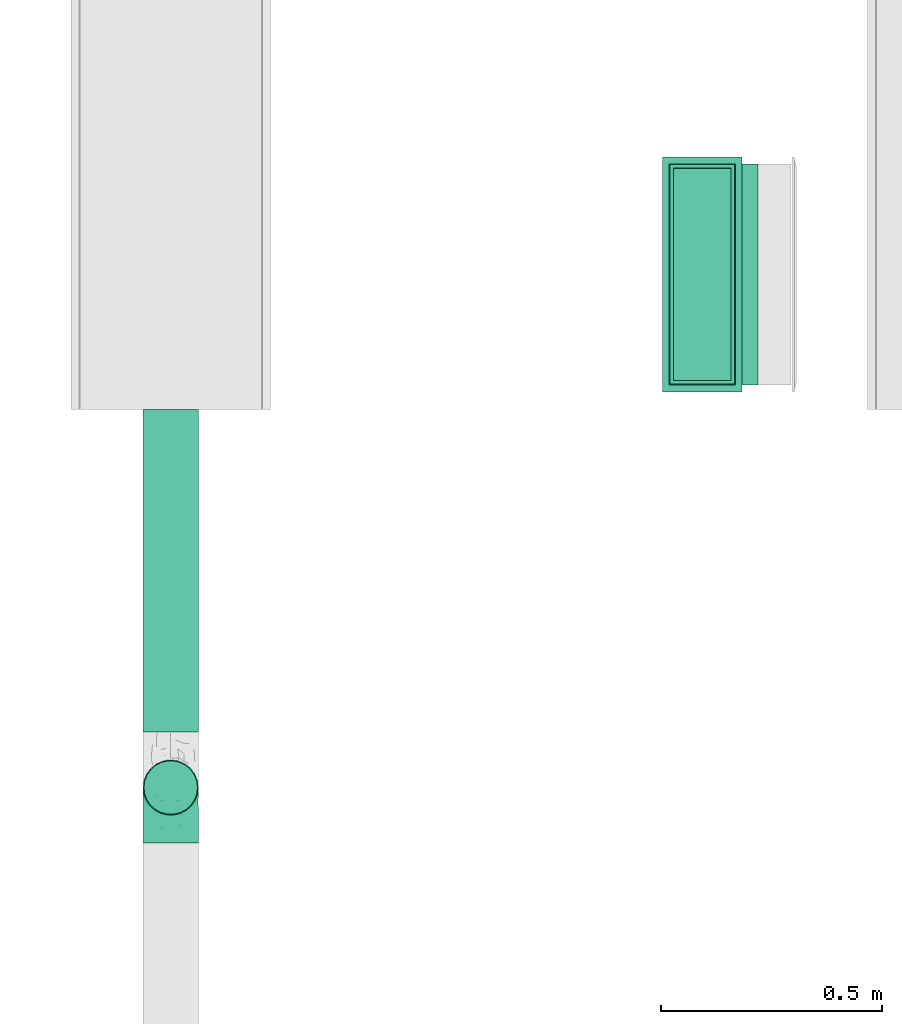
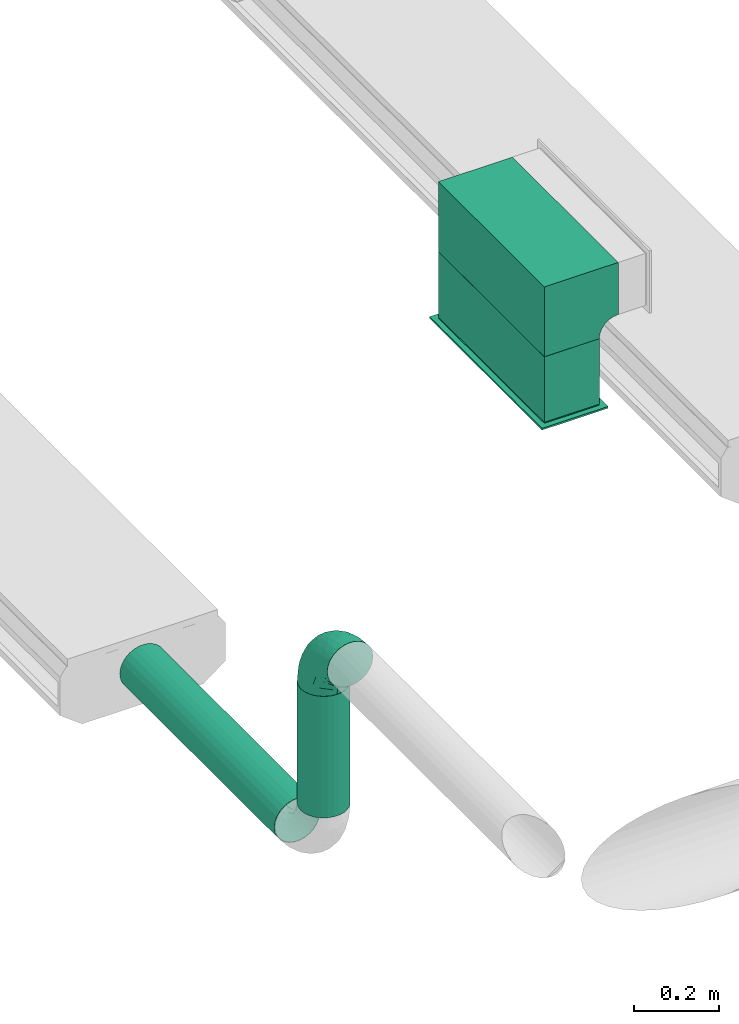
# One storey, part 28 of 36: 3 flow segments, 2 flow fittings, 1 flow terminal.
"""IFC2X3 building model written with IfcOpenShell, lengths in millimetres."""

from ifc_helpers import new_model, entity, si_unit, converted_unit, derived_unit, direction, frame, origin_with_axes, origin_2d_with_axis, place, context, subcontext, project, spatial, hollow_rectangle, hollow_circle, extrude, open_shell, surface_model, source, transform, mapped, type_object, element, save


model = new_model("IFC2X3")

# Units and contexts
model_context = context("Model", 3, precision=0.01, world=frame((0.0, 4.29681676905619e-09, 0.0)), true_north=direction((4.01073788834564e-13, 1.0)))
plan_context = context("Plan", 3, precision=0.01, world=frame((0.0, 4.29681676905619e-09, 0.0)), true_north=direction((4.01073788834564e-13, 1.0)))
body_context = subcontext(model_context, "Body", "Model", "MODEL_VIEW")
ifc_project = project(units=[converted_unit("PLANEANGLEUNIT", "DEGREE", entity("IfcPositiveLengthMeasure", 0.0174532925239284), si_unit("PLANEANGLEUNIT", "RADIAN"), dimensions=[0, 0, 0, 0, 0, 0, 0]), si_unit("AREAUNIT", "SQUARE_METRE"), si_unit("LENGTHUNIT", "METRE", prefix="MILLI"), si_unit("MASSUNIT", "GRAM", prefix="KILO"), si_unit("POWERUNIT", "WATT"), si_unit("PRESSUREUNIT", "PASCAL"), si_unit("FORCEUNIT", "NEWTON", prefix="KILO"), si_unit("ELECTRICCURRENTUNIT", "AMPERE"), si_unit("THERMODYNAMICTEMPERATUREUNIT", "DEGREE_CELSIUS"), si_unit("TIMEUNIT", "SECOND"), si_unit("VOLUMEUNIT", "CUBIC_METRE"), derived_unit("LINEARVELOCITYUNIT", [(si_unit("LENGTHUNIT", "METRE"), 1), (si_unit("TIMEUNIT", "SECOND"), -1)]), derived_unit("VOLUMETRICFLOWRATEUNIT", [(si_unit("VOLUMEUNIT", "CUBIC_METRE"), 1), (si_unit("TIMEUNIT", "SECOND"), -1)]), derived_unit("THERMALTRANSMITTANCEUNIT", [(si_unit("POWERUNIT", "WATT"), 1), (si_unit("THERMODYNAMICTEMPERATUREUNIT", "KELVIN"), -1), (si_unit("AREAUNIT", "SQUARE_METRE"), -1)])], contexts=[model_context, plan_context])

# Site, building, storey
site_placement = place(None, frame((0.0, -4.29681676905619e-09, 0.0), z_axis=(0.0, 0.0, 1.0), x_axis=(1.0, 0.0, 0.0)))
site = spatial("IfcSite", under=ifc_project, at=site_placement, CompositionType="ELEMENT")
building_placement = place(site_placement, frame((0.0, 4.29681676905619e-09, 0.0), z_axis=(0.0, 0.0, 1.0), x_axis=(1.0, 0.0, 0.0)))
building = spatial("IfcBuilding", under=site, at=building_placement, Name="mc-building", CompositionType="ELEMENT")
storey_placement = place(building_placement, frame((0.0, 0.0, 204000.0), z_axis=(0.0, 0.0, 1.0), x_axis=(1.0, 0.0, 0.0)))
storey = spatial("IfcBuildingStorey", under=building, at=storey_placement, Name="Nivå D", CompositionType="ELEMENT", Elevation=204000.0)

# Flow fittings
duct_fitting_type_1 = type_object("IfcDuctFittingType", Name="WA", PredefinedType="BEND")
shared_shape_1 = source(origin_with_axes(), body_context, "Body", "SurfaceModel", [
    surface_model("IfcShellBasedSurfaceModel", [(-76.70371, 112.05905, 250.0), (-81.69873, 100.0, 250.0), (75.0, 125.0, 250.0), (-75.0, 126.5, 250.0), (75.0, 126.5, 250.0), (-75.0, 125.0, 250.0), (75.0, -75.0, 250.0), (-126.5, 75.0, 250.0), (-126.5, -75.0, 250.0), (-125.0, 75.0, 250.0), (-112.05905, 76.70371, 250.0), (-89.64466, 89.64466, 250.0), (-100.0, 81.69873, 250.0), (-126.5, -75.0, -250.0), (-126.5, 75.0, -250.0), (-125.0, 75.0, -250.0), (-112.05905, 76.70371, -250.0), (-100.0, 81.69873, -250.0), (75.0, -75.0, -250.0), (-89.64466, 89.64466, -250.0), (-81.69873, 100.0, -250.0), (-76.70371, 112.05905, -250.0), (75.0, 125.0, -250.0), (-75.0, 125.0, -250.0), (-75.0, 126.5, -250.0), (75.0, 126.5, -250.0)], [open_shell([[[0, 1, 2]], [[3, 2, 4]], [[2, 3, 5]], [[2, 5, 0]], [[1, 6, 2]], [[7, 8, 9]], [[9, 8, 10]], [[11, 12, 6]], [[8, 12, 10]], [[12, 8, 6]], [[11, 6, 1]], [[13, 14, 15]], [[13, 15, 16]], [[13, 17, 18]], [[17, 13, 16]], [[18, 17, 19]], [[20, 21, 22]], [[20, 22, 18]], [[23, 22, 21]], [[22, 23, 24]], [[24, 25, 22]], [[20, 18, 19]], [[20, 1, 0]], [[23, 0, 5]], [[21, 0, 23]], [[20, 0, 21]], [[20, 19, 1]], [[19, 11, 1]], [[10, 12, 16]], [[9, 10, 15]], [[19, 17, 11]], [[17, 12, 11]], [[16, 12, 17]], [[16, 15, 10]], [[7, 9, 14]], [[15, 14, 9]], [[8, 7, 13]], [[14, 13, 7]], [[6, 8, 13]], [[13, 18, 6]], [[2, 6, 22]], [[18, 22, 6]], [[4, 2, 25]], [[22, 25, 2]], [[3, 4, 24]], [[25, 24, 4]], [[5, 3, 23]], [[24, 23, 3]]])]),
])
flow_fitting_1_placement = place(storey_placement, frame((528446.18595, 418919.06689, 3190.0), z_axis=(0.0, 1.0, 0.0), x_axis=(0.0, 0.0, 1.0)))
element("IfcFlowFitting", 1, at=flow_fitting_1_placement, inside=storey, type_object=duct_fitting_type_1, Name="WA", context=body_context, shape_type="MappedRepresentation", body=[
    mapped(shared_shape_1, transform((0.0, 0.0, 0.0), scale=1.0)),
])
duct_fitting_type_2 = type_object("IfcDuctFittingType", Name="magicirc_elbow_full_radius_001", PredefinedType="BEND")
shared_shape_2 = source(origin_with_axes(), body_context, "Body", "SurfaceModel", [
    surface_model("IfcShellBasedSurfaceModel", [(-125.0, 31.25, -54.12659), (-125.0, 16.17619, -60.37037), (-125.0, 44.19417, -44.19417), (-125.0, 60.37037, -16.17619), (-125.0, 54.12659, -31.25), (-125.0, -31.25, -54.12659), (-125.0, -44.19417, -44.19417), (-125.0, -16.17619, -60.37037), (-125.0, -54.12659, -31.25), (-125.0, -60.37037, -16.17619), (-125.0, -62.5, 0.0), (-125.0, -54.12659, 31.25), (-125.0, -44.19417, 44.19417), (-125.0, -60.37037, 16.17619), (-125.0, -16.17619, 60.37037), (-125.0, 0.0, 62.5), (-125.0, -31.25, 54.12659), (-125.0, 16.17619, 60.37037), (-44.19417, 125.0, -44.19417), (-16.17619, 125.0, -60.37037), (-31.25, 125.0, -54.12659), (-54.12659, 125.0, -31.25), (-60.37037, 125.0, -16.17619), (16.17619, 125.0, -60.37037), (44.19417, 125.0, -44.19417), (31.25, 125.0, -54.12659), (60.37037, 125.0, -16.17619), (54.12659, 125.0, -31.25), (62.5, 125.0, 0.0), (-44.19417, 125.0, 44.19417), (-31.25, 125.0, 54.12659), (-16.17619, 125.0, 60.37037), (60.37037, 125.0, 16.17619), (44.19417, 125.0, 44.19417), (54.12659, 125.0, 31.25), (31.25, 125.0, 54.12659), (0.0, 125.0, 62.5), (16.17619, 125.0, 60.37037), (-92.0149, -48.59662, 35.11543), (-82.31101, -36.10079, 46.59002), (-83.27732, -57.79898, 0.0), (21.5934, 8.09566, 0.0), (6.68953, -6.68953, 12.50062), (-8.09566, -21.5934, 0.0), (-85.18285, -54.95352, 19.72452), (-63.86862, 108.10791, 10.69753), (-72.65264, 88.16475, 13.64847), (-58.85933, 108.47697, 26.01876), (28.68805, 50.93011, 42.73586), (15.24994, 48.30376, 51.88115), (13.33611, 22.15566, 40.76355), (-28.58034, -33.18174, 16.61251), (-55.80927, -40.00167, 31.60254), (-55.92901, -46.21073, 18.75923), (-43.6468, -43.93166, 0.0), (-11.16429, 11.16428, 51.09905), (-91.91541, -23.64007, 56.2333), (-48.30376, -15.24994, 51.88115), (-62.2246, -0.56088, 60.57833), (-86.05221, 71.09173, 22.01563), (-76.29757, 73.71528, 30.99181), (-95.48, -8.27954, 61.43109), (-21.72166, 61.46244, 62.38786), (-46.29465, 46.29465, 60.98138), (-37.21568, 27.31198, 62.17805), (-125.0, 31.25, 54.12659), (-96.3442, 24.51222, 59.0402), (-23.33012, 107.80836, 58.54242), (-8.56588, 93.49118, 62.34649), (-87.52028, 9.58041, 62.39347), (-125.0, 54.12659, 31.25), (-90.8433, 62.14568, 32.36992), (-104.65631, 61.64741, 22.10298), (-108.67612, 63.76169, 10.43133), (-125.0, 62.5, 0.0), (-125.0, 60.37037, 16.17619), (-88.81041, 72.98575, 10.36437), (36.10079, 82.31101, 46.59002), (-22.15566, -13.33612, 40.76355), (-125.0, 44.19417, 44.19417), (-97.70214, 52.10141, 41.01675), (33.18174, 28.58034, 16.61251), (43.93166, 43.6468, 0.0), (-108.13323, 37.84893, 50.9265), (-16.31425, 41.86087, 61.36861), (-31.05498, 11.46575, 58.36241), (-6.38494, 33.76703, 57.43674), (23.64007, 91.91541, 56.2333), (8.27954, 95.48, 61.43109), (40.00167, 55.80927, 31.60254), (47.31258, 55.33607, 14.21495), (57.79898, 83.27732, 0.0), (54.95352, 85.18285, 19.72452), (48.59662, 92.0149, 35.11543), (-51.08394, 80.06201, 49.23756), (-51.34965, 100.68876, 40.68918), (-65.88145, 69.79931, 44.27158), (-67.25753, 101.08228, 0.0), (-60.37037, 125.0, 16.17619), (-54.12659, 125.0, 31.25), (-66.7509, 56.0836, 51.93913), (-47.27423, 67.56375, 55.69769), (-62.5, 125.0, 0.0), (-80.80582, 80.80582, 0.0), (-101.08228, 67.25753, 0.0), (-27.0301, 84.68903, 59.52251), (-39.49549, 96.79785, 51.80473), (-4.68934, 4.68934, 43.22247), (2.91368, -2.91368, 27.95973), (-68.67967, 26.77168, 61.38152), (-61.32894, 15.31518, 62.47333), (-66.44476, 42.40788, 57.80884), (-86.06534, 42.42608, 52.63144), (-36.4073, 64.87811, 59.87196), (0.56088, 62.2246, 60.57833), (-50.92891, -28.66756, 42.755), (-64.50927, 88.5041, 30.85553), (-27.43118, -26.16339, 29.83954), (22.73426, 21.43212, 28.89237), (-90.73911, 40.97988, -52.27133), (-51.05944, -15.77315, -52.43613), (-54.27147, -0.77962, -59.44482), (-25.11169, -1.04586, -51.21226), (-125.0, 0.0, -62.5), (-98.94229, 7.90272, -62.29658), (-67.16143, 94.52638, -18.73917), (-96.1712, 24.53976, -59.04752), (-57.8841, 72.64103, -48.12601), (-44.50916, 76.42373, -54.27754), (-57.76281, 57.76281, -54.8772), (-107.28047, 64.03146, -11.08737), (-59.60363, -46.85882, -20.9596), (-91.17795, -55.95169, -20.37554), (-87.70528, 72.36167, -15.72738), (37.33987, 90.42119, -47.18844), (21.5694, 79.15007, -55.58604), (24.6394, 105.55614, -56.88213), (-98.81833, 51.80612, -40.89409), (-75.37655, 57.2746, -47.13743), (-29.56225, -32.61603, -19.86672), (2.63114, 29.35884, -52.12213), (-22.06401, 22.064, -59.01679), (-105.22465, -49.75349, -36.31269), (-39.22852, 98.11971, -51.7028), (-25.51302, 90.93127, -59.26694), (7.06321, 14.54725, -41.00964), (25.49531, 46.66577, -43.72165), (20.99941, 20.9078, -30.93535), (-90.42119, -37.33987, -47.18844), (-47.40462, -35.90659, -32.07933), (-105.55614, -24.6394, -56.88213), (0.77962, 54.27147, -59.44482), (12.91756, 53.35696, -54.59988), (7.88048, 92.08251, -61.35725), (0.0, 125.0, -62.5), (-79.15007, -21.5694, -55.58604), (-92.08251, -7.88048, -61.35725), (-78.52964, -46.34869, -33.8522), (-68.20954, -28.53784, -49.07387), (46.34869, 78.52964, -33.8522), (46.85882, 59.60363, -20.9596), (35.90659, 47.40462, -32.07933), (-75.95077, 74.3101, -30.65772), (-100.92719, 60.72326, -27.00798), (2.91558, -2.91558, -27.95435), (6.69001, -6.69001, -12.49729), (32.61603, 29.56225, -19.86672), (-54.06785, 91.48679, -41.70621), (-58.74822, 101.55878, -30.19257), (-7.90272, 98.94229, -62.29658), (49.75349, 105.22465, -36.31269), (-14.77484, 68.85348, -62.48651), (-33.7955, 36.46996, -62.46452), (-36.98162, 59.24998, -60.63975), (55.95169, 91.17795, -20.37554), (-61.70769, 36.16979, -60.43635), (-23.35082, -23.18253, -30.24249), (-68.85348, 14.77484, -62.48651), (-16.60827, -10.64436, -39.25753), (-46.66577, -25.49531, -43.72165), (-69.70063, 70.78468, -40.55271)], [open_shell([[[0, 1, 2]], [[3, 4, 2]], [[5, 6, 7]], [[8, 9, 6]], [[10, 6, 9]], [[11, 12, 13]], [[13, 12, 10]], [[14, 15, 16]], [[16, 15, 17]], [[18, 19, 20]], [[18, 21, 22]], [[23, 24, 25]], [[24, 26, 27]], [[26, 24, 28]], [[29, 30, 31]], [[32, 33, 34]], [[35, 36, 37]], [[12, 38, 39]], [[13, 10, 40]], [[41, 42, 43]], [[44, 11, 13]], [[40, 44, 13]], [[45, 46, 47]], [[11, 38, 12]], [[48, 49, 50]], [[51, 52, 53]], [[51, 53, 54]], [[12, 39, 16]], [[51, 54, 43]], [[55, 50, 49]], [[56, 57, 58]], [[46, 59, 60]], [[61, 15, 14]], [[62, 63, 64]], [[65, 17, 66]], [[56, 16, 39]], [[31, 67, 68]], [[15, 69, 17]], [[70, 71, 72]], [[73, 74, 75]], [[59, 76, 73]], [[77, 33, 35]], [[55, 57, 78]], [[79, 80, 70]], [[81, 41, 82]], [[79, 65, 83]], [[84, 85, 86]], [[77, 35, 87]], [[59, 73, 72]], [[88, 37, 36]], [[89, 81, 90]], [[91, 92, 90]], [[91, 32, 92]], [[93, 92, 34]], [[36, 31, 68]], [[53, 40, 54]], [[32, 34, 92]], [[77, 89, 93]], [[34, 33, 93]], [[94, 95, 96]], [[45, 97, 46]], [[98, 47, 99]], [[32, 91, 28]], [[38, 44, 52]], [[71, 60, 59]], [[94, 100, 101]], [[102, 97, 45]], [[15, 61, 69]], [[46, 103, 76]], [[79, 83, 80]], [[97, 103, 46]], [[87, 35, 37]], [[47, 95, 99]], [[76, 103, 104]], [[105, 106, 101]], [[107, 108, 50]], [[105, 62, 68]], [[16, 56, 14]], [[106, 105, 67]], [[67, 31, 30]], [[30, 29, 106]], [[77, 87, 49]], [[90, 81, 82]], [[109, 110, 64]], [[66, 17, 69]], [[111, 66, 109]], [[100, 80, 112]], [[72, 71, 59]], [[95, 29, 99]], [[113, 101, 63]], [[105, 113, 62]], [[88, 68, 114]], [[57, 56, 39]], [[61, 56, 58]], [[57, 115, 78]], [[57, 55, 85]], [[88, 87, 37]], [[114, 86, 49]], [[114, 49, 87]], [[107, 50, 55]], [[44, 38, 11]], [[39, 38, 52]], [[77, 93, 33]], [[92, 93, 89]], [[109, 66, 69]], [[83, 66, 112]], [[73, 76, 104]], [[46, 76, 59]], [[74, 73, 104]], [[73, 75, 72]], [[75, 70, 72]], [[71, 70, 80]], [[80, 96, 71]], [[60, 96, 116]], [[106, 94, 101]], [[111, 100, 112]], [[109, 64, 63]], [[114, 68, 62]], [[85, 64, 58]], [[62, 64, 84]], [[68, 88, 36]], [[87, 88, 114]], [[56, 61, 14]], [[69, 61, 58]], [[96, 95, 116]], [[106, 29, 95]], [[42, 51, 43]], [[117, 108, 78]], [[89, 48, 118]], [[81, 118, 42]], [[115, 57, 39]], [[51, 117, 52]], [[118, 50, 108]], [[77, 48, 89]], [[109, 69, 110]], [[111, 109, 63]], [[101, 111, 63]], [[66, 111, 112]], [[101, 100, 111]], [[80, 100, 96]], [[69, 58, 110]], [[58, 64, 110]], [[96, 60, 71]], [[46, 60, 116]], [[57, 85, 58]], [[86, 85, 55]], [[49, 86, 55]], [[84, 86, 114]], [[62, 84, 114]], [[85, 84, 64]], [[47, 46, 116]], [[102, 45, 98]], [[81, 42, 41]], [[51, 42, 108]], [[66, 83, 65]], [[80, 83, 112]], [[106, 67, 30]], [[68, 67, 105]], [[45, 47, 98]], [[95, 47, 116]], [[62, 113, 63]], [[105, 101, 113]], [[95, 94, 106]], [[100, 94, 96]], [[52, 44, 53]], [[53, 44, 40]], [[91, 90, 82]], [[89, 90, 92]], [[39, 52, 115]], [[117, 115, 52]], [[108, 117, 51]], [[115, 117, 78]], [[55, 78, 107]], [[108, 107, 78]], [[42, 118, 108]], [[89, 118, 81]], [[49, 48, 77]], [[118, 48, 50]], [[2, 119, 0]], [[120, 121, 122]], [[123, 1, 124]], [[125, 97, 102]], [[0, 126, 1]], [[127, 128, 129]], [[104, 130, 74]], [[131, 40, 132]], [[104, 133, 130]], [[134, 135, 136]], [[137, 138, 119]], [[54, 139, 43]], [[140, 122, 141]], [[119, 2, 137]], [[132, 8, 142]], [[143, 20, 144]], [[40, 10, 9]], [[145, 146, 147]], [[148, 6, 5]], [[139, 131, 149]], [[150, 148, 5]], [[140, 151, 152]], [[23, 153, 154]], [[132, 9, 8]], [[142, 8, 6]], [[155, 156, 121]], [[157, 148, 158]], [[5, 7, 150]], [[156, 7, 123]], [[159, 160, 161]], [[103, 133, 104]], [[54, 40, 131]], [[125, 162, 133]], [[137, 163, 162]], [[22, 125, 102]], [[139, 164, 165]], [[166, 82, 41]], [[167, 168, 21]], [[162, 125, 168]], [[25, 24, 134]], [[153, 23, 136]], [[19, 169, 144]], [[126, 0, 119]], [[169, 19, 154]], [[24, 27, 170]], [[20, 143, 18]], [[19, 144, 20]], [[23, 25, 136]], [[82, 166, 160]], [[165, 166, 41]], [[171, 172, 173]], [[141, 151, 140]], [[165, 41, 43]], [[156, 155, 150]], [[135, 134, 146]], [[27, 26, 174]], [[28, 91, 26]], [[175, 126, 119]], [[2, 4, 137]], [[174, 159, 170]], [[176, 139, 149]], [[171, 153, 151]], [[125, 103, 97]], [[21, 18, 167]], [[173, 144, 171]], [[130, 163, 3]], [[127, 143, 128]], [[138, 127, 129]], [[174, 160, 159]], [[170, 134, 24]], [[146, 134, 159]], [[151, 153, 135]], [[169, 153, 171]], [[152, 146, 140]], [[151, 141, 172]], [[26, 91, 174]], [[160, 91, 82]], [[155, 120, 158]], [[142, 148, 157]], [[124, 156, 123]], [[177, 172, 121]], [[177, 121, 156]], [[121, 141, 122]], [[132, 157, 131]], [[40, 9, 132]], [[125, 133, 103]], [[168, 22, 21]], [[163, 4, 3]], [[119, 138, 129]], [[175, 119, 129]], [[124, 126, 177]], [[144, 173, 128]], [[167, 18, 143]], [[146, 145, 140]], [[178, 122, 145]], [[122, 140, 145]], [[122, 179, 120]], [[162, 163, 133]], [[137, 4, 163]], [[126, 124, 1]], [[156, 124, 177]], [[153, 169, 154]], [[144, 169, 171]], [[146, 161, 147]], [[145, 164, 178]], [[176, 164, 139]], [[122, 178, 179]], [[171, 151, 172]], [[175, 129, 173]], [[121, 172, 141]], [[175, 172, 177]], [[172, 175, 173]], [[126, 175, 177]], [[162, 180, 137]], [[180, 167, 127]], [[160, 174, 91]], [[161, 160, 166]], [[161, 166, 147]], [[146, 159, 161]], [[166, 164, 147]], [[164, 145, 147]], [[149, 131, 157]], [[54, 131, 139]], [[157, 179, 149]], [[176, 179, 178]], [[180, 127, 138]], [[143, 127, 167]], [[144, 128, 143]], [[173, 129, 128]], [[137, 180, 138]], [[167, 180, 162]], [[179, 176, 149]], [[164, 176, 178]], [[139, 165, 43]], [[166, 165, 164]], [[163, 130, 133]], [[74, 130, 3]], [[134, 136, 25]], [[153, 136, 135]], [[174, 170, 27]], [[134, 170, 159]], [[156, 150, 7]], [[148, 150, 155]], [[148, 142, 6]], [[132, 142, 157]], [[162, 168, 167]], [[22, 168, 125]], [[151, 135, 152]], [[146, 152, 135]], [[158, 120, 179]], [[121, 120, 155]], [[157, 158, 179]], [[155, 158, 148]], [[123, 6, 1]], [[6, 2, 1]], [[2, 6, 3]], [[6, 123, 7]], [[10, 12, 6]], [[75, 3, 6]], [[6, 16, 75]], [[75, 16, 70]], [[65, 70, 16]], [[79, 70, 65]], [[65, 16, 17]], [[12, 16, 6]], [[74, 3, 75]], [[19, 24, 154]], [[23, 154, 24]], [[22, 102, 98]], [[24, 19, 18]], [[33, 24, 18]], [[33, 18, 22]], [[24, 32, 28]], [[33, 22, 98]], [[29, 98, 99]], [[98, 29, 33]], [[31, 33, 29]], [[24, 33, 32]], [[36, 35, 33]], [[31, 36, 33]]])]),
])
flow_fitting_2_placement = place(storey_placement, frame((527245.00387, 417759.63634, 3199.99994000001), z_axis=(1.0, 0.0, 0.0), x_axis=(0.0, 0.0, 1.0)))
element("IfcFlowFitting", 2, at=flow_fitting_2_placement, inside=storey, type_object=duct_fitting_type_2, Name="magicirc_elbow_full_radius_001", context=body_context, shape_type="MappedRepresentation", body=[
    mapped(shared_shape_2, transform((0.0, 0.0, 0.0), scale=1.0)),
])

# Flow segments
duct_segment_type_1 = type_object("IfcDuctSegmentType", Name="KK001T - Spiro kanaler, Forsinket stål", PredefinedType="RIGIDSEGMENT")
shared_shape_3 = source(origin_with_axes(), body_context, "Body", "SweptSolid", [
    extrude(hollow_circle(Radius=62.5, WallThickness=2.0, at=origin_2d_with_axis()), frame((0.0, 0.0, 0.0), z_axis=(1.0, 0.0, 0.0), x_axis=(0.0, 1.0, 0.0)), (0.0, 0.0, 1.0), 729.2),
])
flow_segment_1_placement = place(storey_placement, frame((527245.00387, 418613.82336, 2600.00026999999), z_axis=(0.0, 0.0, 1.0), x_axis=(0.0, -1.0, 0.0)))
element("IfcFlowSegment", 3, at=flow_segment_1_placement, inside=storey, type_object=duct_segment_type_1, Name="KK001T - Spiro kanaler, Forsinket stål", context=body_context, shape_type="MappedRepresentation", body=[
    mapped(shared_shape_3, transform((0.0, 0.0, 0.0), scale=1.0)),
])
shared_shape_4 = source(origin_with_axes(), body_context, "Body", "SweptSolid", [
    extrude(hollow_circle(Radius=62.5, WallThickness=2.0, at=origin_2d_with_axis()), frame((0.0, 0.0, 0.0), z_axis=(1.0, 0.0, 0.0), x_axis=(0.0, 1.0, 0.0)), (0.0, 0.0, 1.0), 350.0),
])
flow_segment_2_placement = place(storey_placement, frame((527245.00387, 417759.63634, 2725.00002000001), z_axis=(0.0, -1.0, 0.0), x_axis=(0.0, 0.0, 1.0)))
element("IfcFlowSegment", 4, at=flow_segment_2_placement, inside=storey, type_object=duct_segment_type_1, Name="KK001T - Spiro kanaler, Forsinket stål", context=body_context, shape_type="MappedRepresentation", body=[
    mapped(shared_shape_4, transform((0.0, 0.0, 0.0), scale=1.0)),
])
duct_segment_type_2 = type_object("IfcDuctSegmentType", Name="KK002T - Rektangulære, Forsinket stål", PredefinedType="RIGIDSEGMENT")
shared_shape_5 = source(origin_with_axes(), body_context, "Body", "SweptSolid", [
    extrude(hollow_rectangle(XDim=500.0, YDim=150.0, WallThickness=2.0, at=origin_2d_with_axis()), frame((0.0, 0.0, 0.0), z_axis=(1.0, 0.0, 0.0), x_axis=(0.0, 1.0, 0.0)), (0.0, 0.0, 1.0), 188.4),
])
flow_segment_3_placement = place(storey_placement, frame((528446.18595, 418919.06689, 2875.05682999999), z_axis=(-1.0, 0.0, 0.0), x_axis=(0.0, 0.0, 1.0)))
element("IfcFlowSegment", 5, at=flow_segment_3_placement, inside=storey, type_object=duct_segment_type_2, Name="KK002T - Rektangulære, Forsinket stål", context=body_context, shape_type="MappedRepresentation", body=[
    mapped(shared_shape_5, transform((0.0, 0.0, 0.0), scale=1.0)),
])

# Flow terminal
air_terminal_type = type_object("IfcAirTerminalType", Name="GRLc 500-150", PredefinedType="NOTDEFINED")
shared_shape_6 = source(origin_with_axes(), body_context, "Body", "SurfaceModel", [
    surface_model("IfcShellBasedSurfaceModel", [(9.90194, -239.99999, 64.98039), (4.90194, -264.99999, 89.98039), (9.90194, 239.99999, 64.98039), (4.90194, 264.99999, 89.98039), (10.09806, 239.99999, 65.01961), (5.09806, 264.99999, 90.01961), (5.09806, -264.99999, 90.01961), (10.09806, -239.99999, 65.01961), (10.09806, -239.99999, -65.01961), (5.09806, -264.99999, -90.01961), (10.09806, 239.99999, -65.01961), (5.09806, 264.99999, -90.01961), (9.90194, 239.99999, -64.98039), (4.90194, 264.99999, -89.98039), (4.90194, -264.99999, -89.98039), (9.90194, -239.99999, -64.98039), (9.90194, -239.98039, -65.0), (4.90194, -264.98039, -90.0), (4.90194, -264.98039, 90.0), (9.90194, -239.98039, 65.0), (10.09806, -240.01962, 65.0), (5.09806, -265.01962, 90.0), (5.09806, -265.01962, -90.0), (10.09806, -240.01962, -65.0), (10.09806, 240.01962, -65.0), (5.09806, 265.01962, -90.0), (5.09806, 265.01962, 90.0), (10.09806, 240.01962, 65.0), (9.90194, 239.98039, 65.0), (4.90194, 264.98039, 90.0), (4.90194, 264.98039, -90.0), (9.90194, 239.98039, -65.0), (-0.1, 264.99999, 75.0), (-0.1, 250.0, 75.0), (-0.1, 250.0, 90.0), (-0.1, 264.99999, 90.0), (0.1, 264.99999, 90.0), (0.1, 250.0, 90.0), (0.1, 250.0, 75.0), (0.1, 264.99999, 75.0), (-0.1, 264.99999, -90.0), (-0.1, 250.0, -90.0), (-0.1, 250.0, -75.0), (-0.1, 264.99999, -75.0), (0.1, 264.99999, -75.0), (0.1, 250.0, -75.0), (0.1, 250.0, -90.0), (0.1, 264.99999, -90.0), (-0.1, -250.0, -90.0), (-0.1, -264.99999, -90.0), (-0.1, -264.99999, -75.0), (-0.1, -250.0, -75.0), (0.1, -250.0, -75.0), (0.1, -264.99999, -75.0), (0.1, -264.99999, -90.0), (0.1, -250.0, -90.0), (-0.1, -250.0, 75.0), (-0.1, -264.99999, 75.0), (-0.1, -264.99999, 90.0), (-0.1, -250.0, 90.0), (0.1, -250.0, 90.0), (0.1, -264.99999, 90.0), (0.1, -264.99999, 75.0), (0.1, -250.0, 75.0), (0.0, -264.99999, 89.9), (0.0, 264.99999, 89.9), (5.0, -264.99999, 89.9), (5.0, 264.99999, 89.9), (5.0, -264.99999, 90.1), (5.0, 264.99999, 90.1), (0.0, 264.99999, 90.1), (0.0, -264.99999, 90.1), (0.0, 264.9, -90.0), (5.0, 264.9, -90.0), (5.0, 264.9, 90.0), (0.0, 264.9, 90.0), (0.0, 265.10001, 90.0), (5.0, 265.10001, 90.0), (0.0, 265.10001, -90.0), (5.0, 265.10001, -90.0), (0.0, -265.10001, -90.0), (5.0, -265.10001, -90.0), (5.0, -265.10001, 90.0), (0.0, -265.10001, 90.0), (0.0, -264.9, 90.0), (5.0, -264.9, 90.0), (0.0, -264.9, -90.0), (5.0, -264.9, -90.0), (0.0, -264.99999, -90.1), (0.0, 264.99999, -90.1), (5.0, -264.99999, -90.1), (5.0, 264.99999, -90.1), (5.0, -264.99999, -89.9), (5.0, 264.99999, -89.9), (0.0, 264.99999, -89.9), (0.0, -264.99999, -89.9), (5.0, -239.99999, -65.1), (5.0, 239.99999, -65.1), (10.0, 239.99999, -65.1), (10.0, -239.99999, -65.1), (10.0, -239.99999, -64.9), (10.0, 239.99999, -64.9), (5.0, 239.99999, -64.9), (5.0, -239.99999, -64.9), (5.0, -239.99999, 64.9), (5.0, 239.99999, 64.9), (10.0, 239.99999, 64.9), (10.0, -239.99999, 64.9), (10.0, -239.99999, 65.1), (10.0, 239.99999, 65.1), (5.0, 239.99999, 65.1), (5.0, -239.99999, 65.1), (5.0, 239.9, -65.0), (10.0, 239.9, -65.0), (10.0, 239.9, 65.0), (5.0, 239.9, 65.0), (5.0, 240.10001, 65.0), (10.0, 240.10001, 65.0), (5.0, 240.10001, -65.0), (10.0, 240.10001, -65.0), (5.0, -240.10001, -65.0), (10.0, -240.10001, -65.0), (10.0, -240.10001, 65.0), (5.0, -240.10001, 65.0), (5.0, -239.9, 65.0), (10.0, -239.9, 65.0), (5.0, -239.9, -65.0), (10.0, -239.9, -65.0)], [open_shell([[[0, 1, 2]], [[3, 2, 1]], [[4, 5, 6]], [[6, 7, 4]], [[3, 1, 6]], [[6, 5, 3]], [[2, 3, 5]], [[5, 4, 2]], [[0, 2, 4]], [[4, 7, 0]], [[1, 0, 7]], [[7, 6, 1]], [[8, 9, 10]], [[11, 10, 9]], [[12, 13, 14]], [[14, 15, 12]], [[11, 9, 14]], [[14, 13, 11]], [[10, 11, 13]], [[13, 12, 10]], [[8, 10, 12]], [[12, 15, 8]], [[9, 8, 15]], [[15, 14, 9]], [[16, 17, 18]], [[18, 19, 16]], [[20, 21, 22]], [[22, 23, 20]], [[18, 17, 22]], [[22, 21, 18]], [[19, 18, 21]], [[21, 20, 19]], [[16, 19, 23]], [[20, 23, 19]], [[17, 16, 22]], [[23, 22, 16]], [[24, 25, 26]], [[26, 27, 24]], [[28, 29, 30]], [[30, 31, 28]], [[26, 25, 30]], [[30, 29, 26]], [[27, 26, 29]], [[29, 28, 27]], [[24, 27, 31]], [[28, 31, 27]], [[25, 24, 31]], [[31, 30, 25]], [[32, 33, 34]], [[34, 35, 32]], [[36, 37, 38]], [[38, 39, 36]], [[34, 33, 38]], [[38, 37, 34]], [[35, 34, 37]], [[37, 36, 35]], [[32, 35, 36]], [[36, 39, 32]], [[33, 32, 39]], [[39, 38, 33]], [[40, 41, 42]], [[42, 43, 40]], [[44, 45, 46]], [[46, 47, 44]], [[42, 41, 46]], [[46, 45, 42]], [[43, 42, 45]], [[45, 44, 43]], [[40, 43, 44]], [[44, 47, 40]], [[41, 40, 47]], [[47, 46, 41]], [[48, 49, 50]], [[50, 51, 48]], [[52, 53, 54]], [[54, 55, 52]], [[50, 49, 54]], [[54, 53, 50]], [[51, 50, 53]], [[53, 52, 51]], [[48, 51, 52]], [[52, 55, 48]], [[49, 48, 55]], [[55, 54, 49]], [[56, 57, 58]], [[58, 59, 56]], [[60, 61, 62]], [[62, 63, 60]], [[58, 57, 62]], [[62, 61, 58]], [[59, 58, 61]], [[61, 60, 59]], [[56, 59, 60]], [[60, 63, 56]], [[57, 56, 63]], [[63, 62, 57]], [[64, 65, 66]], [[67, 66, 65]], [[68, 69, 70]], [[70, 71, 68]], [[67, 65, 70]], [[70, 69, 67]], [[66, 67, 69]], [[69, 68, 66]], [[64, 66, 68]], [[68, 71, 64]], [[65, 64, 71]], [[71, 70, 65]], [[72, 73, 74]], [[74, 75, 72]], [[76, 77, 78]], [[79, 78, 77]], [[74, 73, 79]], [[79, 77, 74]], [[75, 74, 77]], [[77, 76, 75]], [[72, 75, 76]], [[76, 78, 72]], [[73, 72, 78]], [[78, 79, 73]], [[80, 81, 82]], [[82, 83, 80]], [[84, 85, 86]], [[87, 86, 85]], [[82, 81, 87]], [[87, 85, 82]], [[83, 82, 85]], [[85, 84, 83]], [[80, 83, 84]], [[84, 86, 80]], [[81, 80, 86]], [[86, 87, 81]], [[88, 89, 90]], [[91, 90, 89]], [[92, 93, 94]], [[94, 95, 92]], [[91, 89, 94]], [[94, 93, 91]], [[90, 91, 93]], [[93, 92, 90]], [[88, 90, 92]], [[92, 95, 88]], [[89, 88, 95]], [[95, 94, 89]], [[96, 97, 98]], [[98, 99, 96]], [[100, 101, 102]], [[102, 103, 100]], [[98, 97, 101]], [[102, 101, 97]], [[99, 98, 101]], [[101, 100, 99]], [[96, 99, 100]], [[100, 103, 96]], [[97, 96, 103]], [[103, 102, 97]], [[104, 105, 106]], [[106, 107, 104]], [[108, 109, 110]], [[110, 111, 108]], [[106, 105, 109]], [[110, 109, 105]], [[107, 106, 109]], [[109, 108, 107]], [[104, 107, 108]], [[108, 111, 104]], [[105, 104, 111]], [[111, 110, 105]], [[112, 113, 114]], [[114, 115, 112]], [[116, 117, 118]], [[119, 118, 117]], [[114, 113, 119]], [[119, 117, 114]], [[115, 114, 117]], [[117, 116, 115]], [[112, 115, 118]], [[116, 118, 115]], [[113, 112, 118]], [[118, 119, 113]], [[120, 121, 122]], [[122, 123, 120]], [[124, 125, 126]], [[127, 126, 125]], [[122, 121, 127]], [[127, 125, 122]], [[123, 122, 125]], [[125, 124, 123]], [[120, 123, 126]], [[124, 126, 123]], [[121, 120, 126]], [[126, 127, 121]], [[33, 56, 34]], [[59, 34, 56]], [[37, 60, 63]], [[63, 38, 37]], [[59, 56, 63]], [[63, 60, 59]], [[34, 59, 60]], [[60, 37, 34]], [[33, 34, 37]], [[37, 38, 33]], [[56, 33, 38]], [[38, 63, 56]], [[51, 50, 57]], [[57, 56, 51]], [[63, 62, 53]], [[53, 52, 63]], [[57, 50, 53]], [[53, 62, 57]], [[56, 57, 62]], [[62, 63, 56]], [[51, 56, 63]], [[63, 52, 51]], [[50, 51, 52]], [[52, 53, 50]], [[41, 48, 42]], [[51, 42, 48]], [[45, 52, 55]], [[55, 46, 45]], [[51, 48, 55]], [[55, 52, 51]], [[42, 51, 52]], [[52, 45, 42]], [[41, 42, 45]], [[45, 46, 41]], [[48, 41, 46]], [[46, 55, 48]], [[43, 42, 33]], [[33, 32, 43]], [[39, 38, 45]], [[45, 44, 39]], [[33, 42, 45]], [[45, 38, 33]], [[32, 33, 38]], [[38, 39, 32]], [[43, 32, 39]], [[39, 44, 43]], [[42, 43, 44]], [[44, 45, 42]]])]),
])
flow_terminal_placement = place(storey_placement, frame((528446.18595, 418919.06689, 2871.97834999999), z_axis=(-1.0, 0.0, 0.0), x_axis=(0.0, 0.0, -1.0)))
element("IfcFlowTerminal", 6, at=flow_terminal_placement, inside=storey, type_object=air_terminal_type, Name="GRLc 500-150", context=body_context, shape_type="MappedRepresentation", body=[
    mapped(shared_shape_6, transform((0.0, 0.0, 0.0), scale=1.0)),
])

save(model, "model.ifc")
